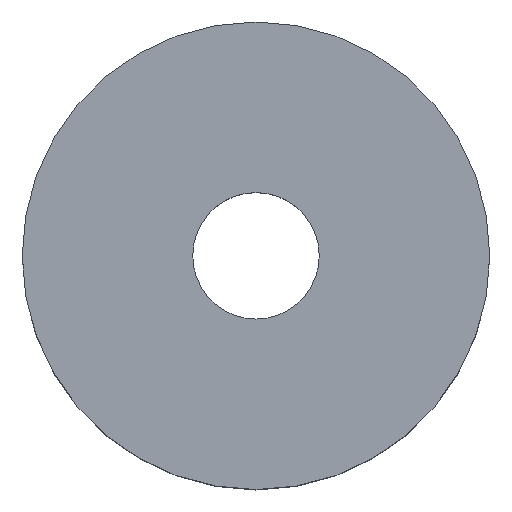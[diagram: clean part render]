
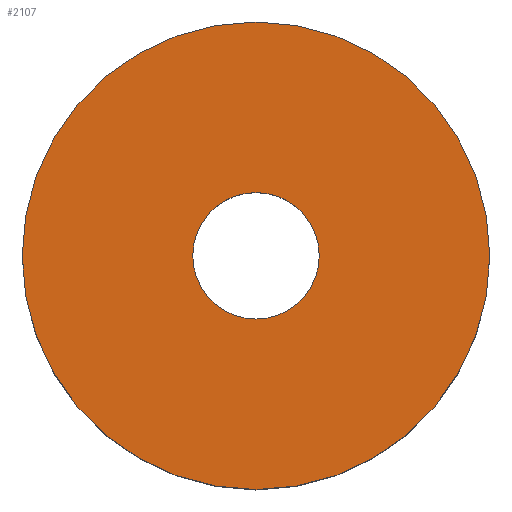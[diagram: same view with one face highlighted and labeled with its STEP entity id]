
A CAD part, top view. The second image highlights one B-rep face of the part: STEP entity #2107.
In plain terms, the highlighted planar face has unit normal (0, 0, 1).
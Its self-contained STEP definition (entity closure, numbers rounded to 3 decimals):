
#57=CARTESIAN_POINT('Axis2P3D Location',(0.,0.,4.2)) ;
#61=CARTESIAN_POINT('Vertex',(-1.15,0.,4.2)) ;
#63=CARTESIAN_POINT('Vertex',(1.15,0.,4.2)) ;
#92=CARTESIAN_POINT('Axis2P3D Location',(0.,0.,4.2)) ;
#2048=CARTESIAN_POINT('Vertex',(-4.25,0.,4.2)) ;
#2062=CARTESIAN_POINT('Vertex',(4.25,0.,4.2)) ;
#2065=CARTESIAN_POINT('Axis2P3D Location',(0.,0.,4.2)) ;
#2082=CARTESIAN_POINT('Axis2P3D Location',(0.,0.,4.2)) ;
#2094=CARTESIAN_POINT('Axis2P3D Location',(0.,0.,4.2)) ;
#58=DIRECTION('Axis2P3D Direction',(0.,0.,1.)) ;
#93=DIRECTION('Axis2P3D Direction',(0.,0.,1.)) ;
#2066=DIRECTION('Axis2P3D Direction',(0.,0.,1.)) ;
#2083=DIRECTION('Axis2P3D Direction',(0.,0.,1.)) ;
#2095=DIRECTION('Axis2P3D Direction',(0.,0.,1.)) ;
#2096=DIRECTION('Axis2P3D XDirection',(1.,0.,0.)) ;
#59=AXIS2_PLACEMENT_3D('Circle Axis2P3D',#57,#58,$) ;
#94=AXIS2_PLACEMENT_3D('Circle Axis2P3D',#92,#93,$) ;
#2067=AXIS2_PLACEMENT_3D('Circle Axis2P3D',#2065,#2066,$) ;
#2084=AXIS2_PLACEMENT_3D('Circle Axis2P3D',#2082,#2083,$) ;
#2097=AXIS2_PLACEMENT_3D('Plane Axis2P3D',#2094,#2095,#2096) ;
#2100=ORIENTED_EDGE('',*,*,#2086,.T.) ;
#2101=ORIENTED_EDGE('',*,*,#2069,.T.) ;
#2104=ORIENTED_EDGE('',*,*,#65,.F.) ;
#2105=ORIENTED_EDGE('',*,*,#96,.F.) ;
#2106=FACE_BOUND('',#2103,.T.) ;
#2107=ADVANCED_FACE('Hauptk\X2\00F6\X0\rper',(#2102,#2106),#2098,.T.) ;
#60=CIRCLE('generated circle',#59,1.15) ;
#95=CIRCLE('generated circle',#94,1.15) ;
#2068=CIRCLE('generated circle',#2067,4.25) ;
#2085=CIRCLE('generated circle',#2084,4.25) ;
#65=EDGE_CURVE('',#62,#64,#60,.T.) ;
#96=EDGE_CURVE('',#64,#62,#95,.T.) ;
#2069=EDGE_CURVE('',#2049,#2063,#2068,.T.) ;
#2086=EDGE_CURVE('',#2063,#2049,#2085,.T.) ;
#2099=EDGE_LOOP('',(#2100,#2101)) ;
#2103=EDGE_LOOP('',(#2104,#2105)) ;
#2102=FACE_OUTER_BOUND('',#2099,.T.) ;
#2098=PLANE('',#2097) ;
#62=VERTEX_POINT('',#61) ;
#64=VERTEX_POINT('',#63) ;
#2049=VERTEX_POINT('',#2048) ;
#2063=VERTEX_POINT('',#2062) ;
